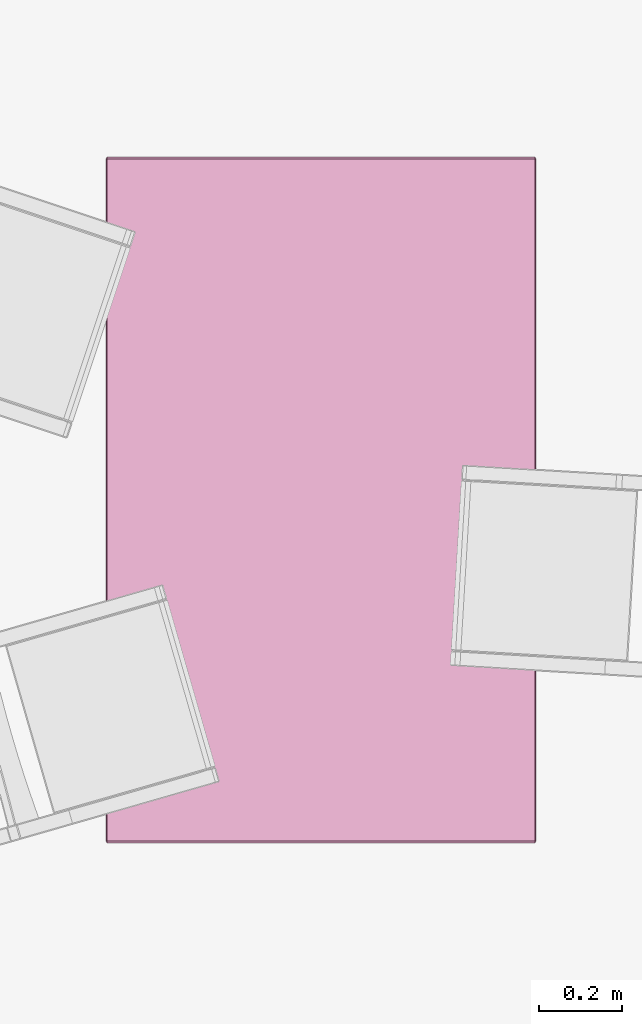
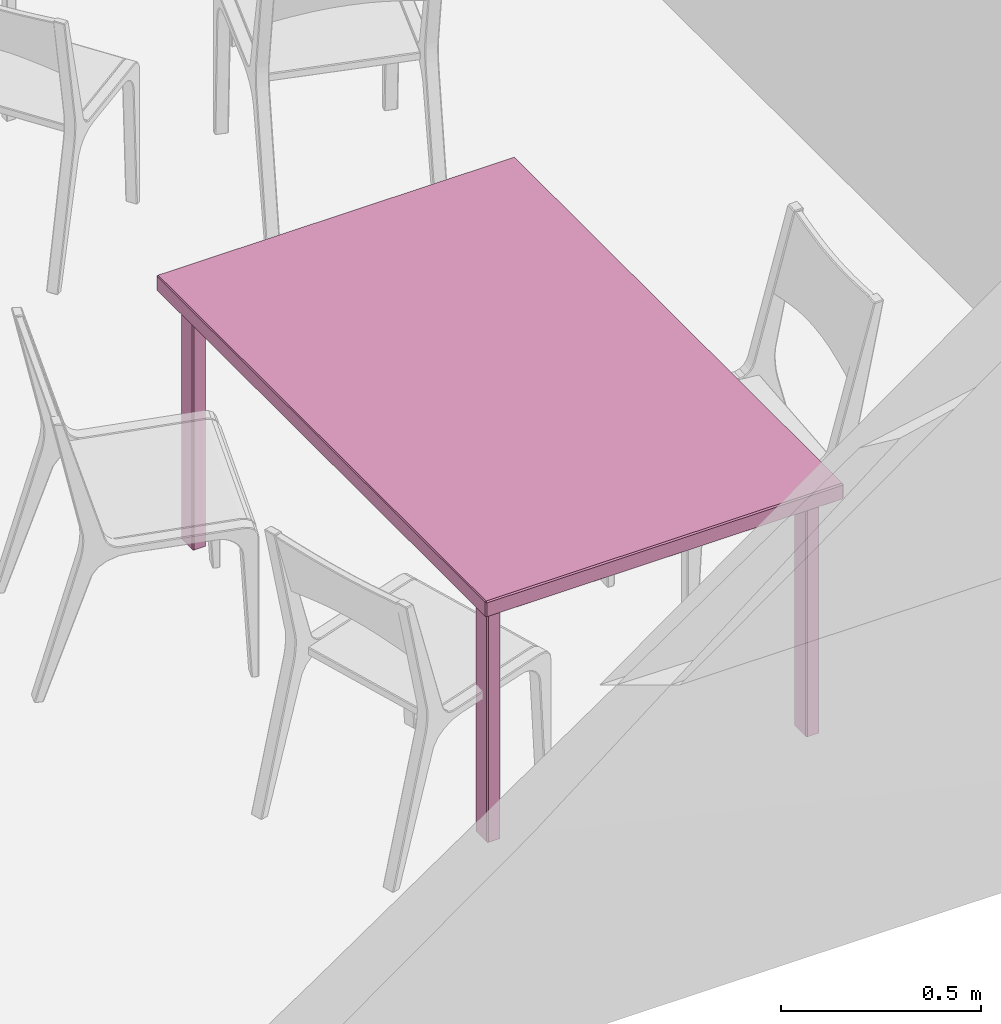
# One storey, part 8 of 25: 1 furnishing.
"""IFC2X3 building model written with IfcOpenShell, lengths in metres."""

from ifc_helpers import new_model, si_unit, direction, frame, origin_with_axes, place, context, project, spatial, faceted_brep, type_object, element, save


model = new_model("IFC2X3")

# Units and contexts
model_context = context("Model", 3, precision=1e-05, world=origin_with_axes(), true_north=direction((0.996, -0.093, 0.0)))
ifc_project = project(units=[si_unit("LENGTHUNIT", "METRE"), si_unit("AREAUNIT", "SQUARE_METRE")], contexts=[model_context])

# Site, building, storey, space
site_placement = place(None, origin_with_axes())
site = spatial("IfcSite", under=ifc_project, at=site_placement, Name="Site", CompositionType="ELEMENT")
building_placement = place(site_placement, origin_with_axes())
building = spatial("IfcBuilding", under=site, at=building_placement, Name="Building", CompositionType="ELEMENT")
storey_placement = place(building_placement, frame((0.0, 0.0, 0.0500001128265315), z_axis=(0.0, 0.0, 1.0), x_axis=(1.0, 0.0, 0.0)))
storey = spatial("IfcBuildingStorey", under=building, at=storey_placement, Name="Story 0", CompositionType="ELEMENT", Elevation=0.0499999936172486)
space_placement = place(storey_placement, frame((9.9354534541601, 0.769255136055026, 0.0), z_axis=(0.0, 0.0, 1.0), x_axis=(1.0, 0.0, 0.0)))
space = spatial("IfcSpace", under=storey, at=space_placement, Name="021", CompositionType="ELEMENT", InteriorOrExteriorSpace="INTERNAL")

# Furnishing
furniture_type = type_object("IfcFurnitureType", Name="36fb0105-c316-4387-9084-c27e1522d03f")
furnishing_placement = place(space_placement, frame((-1.73505596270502, -4.0138420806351, 0.391879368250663), z_axis=(0.0, 0.0, 1.00000000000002), x_axis=(-0.999999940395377, 0.0, 0.0)))
element("IfcFurnishingElement", 1, at=furnishing_placement, inside=space, type_object=furniture_type, Name="Table", ObjectType="Table", context=model_context, shape_type="Brep", body=[
    faceted_brep([(0.5131, 0.8223, 0.3464), (-0.5131, 0.8223, 0.3464), (0.5131, 0.8223, 0.3884), (-0.5131, 0.8223, 0.3884), (0.5131, 0.8223, 0.3884), (-0.5131, 0.8223, 0.3464), (0.4398, -0.7614, 0.3552), (0.4398, -0.7074, 0.3552), (0.4398, -0.7614, -0.3884), (0.4398, -0.7074, -0.3884), (0.4398, -0.7614, -0.3884), (0.4398, -0.7074, 0.3552), (0.4762, -0.7655, 0.3552), (0.4424, -0.7655, 0.3552), (0.4762, -0.7655, -0.3884), (0.4424, -0.7655, -0.3884), (0.4762, -0.7655, -0.3884), (0.4424, -0.7655, 0.3552), (0.4788, -0.7074, 0.3552), (0.4788, -0.7614, 0.3552), (0.4788, -0.7074, -0.3884), (0.4788, -0.7614, -0.3884), (0.4788, -0.7074, -0.3884), (0.4788, -0.7614, 0.3552), (0.4424, -0.7033, 0.3552), (0.4762, -0.7033, 0.3552), (0.4424, -0.7033, -0.3884), (0.4762, -0.7033, -0.3884), (0.4424, -0.7033, -0.3884), (0.4762, -0.7033, 0.3552), (0.4398, 0.7614, 0.3552), (0.4398, 0.7614, -0.3884), (0.4398, 0.7074, 0.3552), (0.4398, 0.7074, -0.3884), (0.4398, 0.7074, 0.3552), (0.4398, 0.7614, -0.3884), (0.4762, 0.7655, 0.3552), (0.4762, 0.7655, -0.3884), (0.4424, 0.7655, 0.3552), (0.4424, 0.7655, -0.3884), (0.4424, 0.7655, 0.3552), (0.4762, 0.7655, -0.3884), (0.4788, 0.7074, 0.3552), (0.4788, 0.7074, -0.3884), (0.4788, 0.7614, 0.3552), (0.4788, 0.7614, -0.3884), (0.4788, 0.7614, 0.3552), (0.4788, 0.7074, -0.3884), (0.4424, 0.7033, 0.3552), (0.4424, 0.7033, -0.3884), (0.4762, 0.7033, 0.3552), (0.4762, 0.7033, -0.3884), (0.4762, 0.7033, 0.3552), (0.4424, 0.7033, -0.3884), (0.5156, 0.8182, 0.3464), (0.5156, 0.8182, 0.3884), (0.5156, -0.8182, 0.3464), (0.5156, -0.8182, 0.3884), (0.5156, -0.8182, 0.3464), (0.5156, 0.8182, 0.3884), (-0.5156, 0.8182, 0.3884), (-0.5156, 0.8182, 0.3464), (-0.5156, -0.8182, 0.3884), (-0.5156, -0.8182, 0.3464), (-0.5156, -0.8182, 0.3884), (-0.5156, 0.8182, 0.3464), (-0.4398, -0.7614, 0.3552), (-0.4398, -0.7614, -0.3884), (-0.4398, -0.7074, 0.3552), (-0.4398, -0.7074, -0.3884), (-0.4398, -0.7074, 0.3552), (-0.4398, -0.7614, -0.3884), (-0.4762, -0.7655, 0.3552), (-0.4762, -0.7655, -0.3884), (-0.4424, -0.7655, 0.3552), (-0.4424, -0.7655, -0.3884), (-0.4424, -0.7655, 0.3552), (-0.4762, -0.7655, -0.3884), (-0.4788, -0.7074, 0.3552), (-0.4788, -0.7074, -0.3884), (-0.4788, -0.7614, 0.3552), (-0.4788, -0.7614, -0.3884), (-0.4788, -0.7614, 0.3552), (-0.4788, -0.7074, -0.3884), (-0.4424, -0.7033, 0.3552), (-0.4424, -0.7033, -0.3884), (-0.4762, -0.7033, 0.3552), (-0.4762, -0.7033, -0.3884), (-0.4762, -0.7033, 0.3552), (-0.4424, -0.7033, -0.3884), (-0.4398, 0.7614, 0.3552), (-0.4398, 0.7074, 0.3552), (-0.4398, 0.7614, -0.3884), (-0.4398, 0.7074, -0.3884), (-0.4398, 0.7614, -0.3884), (-0.4398, 0.7074, 0.3552), (-0.4762, 0.7655, 0.3552), (-0.4424, 0.7655, 0.3552), (-0.4762, 0.7655, -0.3884), (-0.4424, 0.7655, -0.3884), (-0.4762, 0.7655, -0.3884), (-0.4424, 0.7655, 0.3552), (-0.4788, 0.7074, 0.3552), (-0.4788, 0.7614, 0.3552), (-0.4788, 0.7074, -0.3884), (-0.4788, 0.7614, -0.3884), (-0.4788, 0.7074, -0.3884), (-0.4788, 0.7614, 0.3552), (-0.4424, 0.7033, 0.3552), (-0.4762, 0.7033, 0.3552), (-0.4424, 0.7033, -0.3884), (-0.4762, 0.7033, -0.3884), (-0.4424, 0.7033, -0.3884), (-0.4762, 0.7033, 0.3552), (-0.5131, 0.8182, 0.3919), (-0.5131, -0.8182, 0.3919), (0.5131, 0.8182, 0.3919), (0.5131, -0.8182, 0.3919), (0.5131, 0.8182, 0.3919), (-0.5131, -0.8182, 0.3919), (0.5131, -0.8223, 0.3464), (0.5131, -0.8223, 0.3884), (-0.5131, -0.8223, 0.3464), (-0.5131, -0.8223, 0.3884), (-0.5131, -0.8223, 0.3464), (0.5131, -0.8223, 0.3884), (0.5131, -0.8182, 0.343), (-0.5131, -0.8182, 0.343), (0.5131, 0.8182, 0.343), (-0.5131, 0.8182, 0.343), (0.5131, 0.8182, 0.343), (-0.5131, -0.8182, 0.343), (0.4762, -0.7614, 0.3587), (0.4762, -0.7074, 0.3587), (0.4424, -0.7614, 0.3587), (0.4424, -0.7074, 0.3587), (0.4424, -0.7614, 0.3587), (0.4762, -0.7074, 0.3587), (0.4762, -0.7074, -0.3919), (0.4762, -0.7614, -0.3919), (0.4424, -0.7074, -0.3919), (0.4424, -0.7614, -0.3919), (0.4424, -0.7074, -0.3919), (0.4762, -0.7614, -0.3919), (0.4762, 0.7614, -0.3919), (0.4762, 0.7074, -0.3919), (0.4424, 0.7614, -0.3919), (0.4424, 0.7074, -0.3919), (0.4424, 0.7614, -0.3919), (0.4762, 0.7074, -0.3919), (0.4762, 0.7074, 0.3587), (0.4762, 0.7614, 0.3587), (0.4424, 0.7074, 0.3587), (0.4424, 0.7614, 0.3587), (0.4424, 0.7074, 0.3587), (0.4762, 0.7614, 0.3587), (-0.4762, -0.7614, -0.3919), (-0.4762, -0.7074, -0.3919), (-0.4424, -0.7614, -0.3919), (-0.4424, -0.7074, -0.3919), (-0.4424, -0.7614, -0.3919), (-0.4762, -0.7074, -0.3919), (-0.4762, -0.7074, 0.3587), (-0.4762, -0.7614, 0.3587), (-0.4424, -0.7074, 0.3587), (-0.4424, -0.7614, 0.3587), (-0.4424, -0.7074, 0.3587), (-0.4762, -0.7614, 0.3587), (-0.4762, 0.7614, 0.3587), (-0.4762, 0.7074, 0.3587), (-0.4424, 0.7614, 0.3587), (-0.4424, 0.7074, 0.3587), (-0.4424, 0.7614, 0.3587), (-0.4762, 0.7074, 0.3587), (-0.4762, 0.7074, -0.3919), (-0.4762, 0.7614, -0.3919), (-0.4424, 0.7074, -0.3919), (-0.4424, 0.7614, -0.3919), (-0.4424, 0.7074, -0.3919), (-0.4762, 0.7614, -0.3919), (-0.5131, 0.8182, 0.3919), (-0.5131, 0.8223, 0.3884), (-0.5156, 0.8182, 0.3884), (0.4424, -0.7074, -0.3919), (0.4398, -0.7074, -0.3884), (0.4424, -0.7033, -0.3884), (0.4424, -0.7614, -0.3919), (0.4424, -0.7655, -0.3884), (0.4398, -0.7614, -0.3884), (0.4762, -0.7614, -0.3919), (0.4788, -0.7614, -0.3884), (0.4762, -0.7655, -0.3884), (0.4762, -0.7074, -0.3919), (0.4762, -0.7033, -0.3884), (0.4788, -0.7074, -0.3884), (0.4424, -0.7074, 0.3587), (0.4424, -0.7033, 0.3552), (0.4398, -0.7074, 0.3552), (0.4424, 0.7033, -0.3884), (0.4398, 0.7074, -0.3884), (0.4424, 0.7074, -0.3919), (0.4424, 0.7614, 0.3587), (0.4424, 0.7655, 0.3552), (0.4398, 0.7614, 0.3552), (0.4762, 0.7614, 0.3587), (0.4788, 0.7614, 0.3552), (0.4762, 0.7655, 0.3552), (0.4762, 0.7074, 0.3587), (0.4762, 0.7033, 0.3552), (0.4788, 0.7074, 0.3552), (0.5131, -0.8223, 0.3884), (0.5156, -0.8182, 0.3884), (0.5131, -0.8182, 0.3919), (0.5131, 0.8182, 0.3919), (0.5156, 0.8182, 0.3884), (0.5131, 0.8223, 0.3884), (-0.5131, -0.8223, 0.3464), (-0.5156, -0.8182, 0.3464), (-0.5131, -0.8182, 0.343), (-0.5131, 0.8182, 0.343), (-0.5156, 0.8182, 0.3464), (-0.5131, 0.8223, 0.3464), (-0.4424, -0.7033, -0.3884), (-0.4398, -0.7074, -0.3884), (-0.4424, -0.7074, -0.3919), (-0.4424, -0.7614, 0.3587), (-0.4424, -0.7655, 0.3552), (-0.4398, -0.7614, 0.3552), (-0.4762, -0.7614, 0.3587), (-0.4788, -0.7614, 0.3552), (-0.4762, -0.7655, 0.3552), (-0.4762, -0.7074, 0.3587), (-0.4762, -0.7033, 0.3552), (-0.4788, -0.7074, 0.3552), (-0.4424, 0.7074, -0.3919), (-0.4398, 0.7074, -0.3884), (-0.4424, 0.7033, -0.3884), (-0.4424, 0.7614, -0.3919), (-0.4424, 0.7655, -0.3884), (-0.4398, 0.7614, -0.3884), (-0.4762, 0.7614, -0.3919), (-0.4788, 0.7614, -0.3884), (-0.4762, 0.7655, -0.3884), (-0.4762, 0.7074, -0.3919), (-0.4762, 0.7033, -0.3884), (-0.4788, 0.7074, -0.3884), (-0.4424, 0.7074, 0.3587), (-0.4424, 0.7033, 0.3552), (-0.4398, 0.7074, 0.3552), (-0.5131, -0.8223, 0.3884), (-0.5131, -0.8182, 0.3919), (-0.5156, -0.8182, 0.3884), (0.5131, -0.8223, 0.3464), (0.5131, -0.8182, 0.343), (0.5156, -0.8182, 0.3464), (0.5156, 0.8182, 0.3464), (0.5131, 0.8182, 0.343), (0.5131, 0.8223, 0.3464), (0.4762, -0.7033, 0.3552), (0.4762, -0.7074, 0.3587), (0.4788, -0.7074, 0.3552), (0.4788, -0.7614, 0.3552), (0.4762, -0.7614, 0.3587), (0.4762, -0.7655, 0.3552), (0.4424, -0.7655, 0.3552), (0.4424, -0.7614, 0.3587), (0.4398, -0.7614, 0.3552), (0.4762, 0.7033, -0.3884), (0.4762, 0.7074, -0.3919), (0.4788, 0.7074, -0.3884), (0.4788, 0.7614, -0.3884), (0.4762, 0.7614, -0.3919), (0.4762, 0.7655, -0.3884), (0.4424, 0.7655, -0.3884), (0.4424, 0.7614, -0.3919), (0.4398, 0.7614, -0.3884), (0.4424, 0.7033, 0.3552), (0.4424, 0.7074, 0.3587), (0.4398, 0.7074, 0.3552), (-0.4762, -0.7033, -0.3884), (-0.4762, -0.7074, -0.3919), (-0.4788, -0.7074, -0.3884), (-0.4788, -0.7614, -0.3884), (-0.4762, -0.7614, -0.3919), (-0.4762, -0.7655, -0.3884), (-0.4424, -0.7655, -0.3884), (-0.4424, -0.7614, -0.3919), (-0.4398, -0.7614, -0.3884), (-0.4424, -0.7033, 0.3552), (-0.4424, -0.7074, 0.3587), (-0.4398, -0.7074, 0.3552), (-0.4762, 0.7033, 0.3552), (-0.4762, 0.7074, 0.3587), (-0.4788, 0.7074, 0.3552), (-0.4788, 0.7614, 0.3552), (-0.4762, 0.7614, 0.3587), (-0.4762, 0.7655, 0.3552), (-0.4424, 0.7655, 0.3552), (-0.4424, 0.7614, 0.3587), (-0.4398, 0.7614, 0.3552), (-0.5131, 0.8223, 0.3884), (-0.5131, 0.8223, 0.3464), (-0.5156, 0.8182, 0.3884), (-0.5156, 0.8182, 0.3464), (-0.5156, 0.8182, 0.3884), (-0.5131, 0.8223, 0.3464), (-0.5131, 0.8223, 0.3464), (0.5131, 0.8223, 0.3464), (-0.5131, 0.8182, 0.343), (0.5131, 0.8182, 0.343), (-0.5131, 0.8182, 0.343), (0.5131, 0.8223, 0.3464), (0.5131, 0.8223, 0.3464), (0.5131, 0.8223, 0.3884), (0.5156, 0.8182, 0.3464), (0.5156, 0.8182, 0.3884), (0.5156, 0.8182, 0.3464), (0.5131, 0.8223, 0.3884), (0.5131, 0.8223, 0.3884), (-0.5131, 0.8223, 0.3884), (0.5131, 0.8182, 0.3919), (-0.5131, 0.8182, 0.3919), (0.5131, 0.8182, 0.3919), (-0.5131, 0.8223, 0.3884), (0.4398, -0.7074, -0.3884), (0.4398, -0.7074, 0.3552), (0.4424, -0.7033, -0.3884), (0.4424, -0.7033, 0.3552), (0.4424, -0.7033, -0.3884), (0.4398, -0.7074, 0.3552), (0.4398, -0.7074, 0.3552), (0.4398, -0.7614, 0.3552), (0.4424, -0.7074, 0.3587), (0.4424, -0.7614, 0.3587), (0.4424, -0.7074, 0.3587), (0.4398, -0.7614, 0.3552), (0.4398, -0.7614, 0.3552), (0.4398, -0.7614, -0.3884), (0.4424, -0.7655, 0.3552), (0.4424, -0.7655, -0.3884), (0.4424, -0.7655, 0.3552), (0.4398, -0.7614, -0.3884), (0.4398, -0.7614, -0.3884), (0.4398, -0.7074, -0.3884), (0.4424, -0.7614, -0.3919), (0.4424, -0.7074, -0.3919), (0.4424, -0.7614, -0.3919), (0.4398, -0.7074, -0.3884), (0.4424, -0.7655, 0.3552), (0.4762, -0.7655, 0.3552), (0.4424, -0.7614, 0.3587), (0.4762, -0.7614, 0.3587), (0.4424, -0.7614, 0.3587), (0.4762, -0.7655, 0.3552), (0.4762, -0.7655, 0.3552), (0.4762, -0.7655, -0.3884), (0.4788, -0.7614, 0.3552), (0.4788, -0.7614, -0.3884), (0.4788, -0.7614, 0.3552), (0.4762, -0.7655, -0.3884), (0.4762, -0.7655, -0.3884), (0.4424, -0.7655, -0.3884), (0.4762, -0.7614, -0.3919), (0.4424, -0.7614, -0.3919), (0.4762, -0.7614, -0.3919), (0.4424, -0.7655, -0.3884), (0.4788, -0.7614, 0.3552), (0.4788, -0.7074, 0.3552), (0.4762, -0.7614, 0.3587), (0.4762, -0.7074, 0.3587), (0.4762, -0.7614, 0.3587), (0.4788, -0.7074, 0.3552), (0.4788, -0.7074, 0.3552), (0.4788, -0.7074, -0.3884), (0.4762, -0.7033, 0.3552), (0.4762, -0.7033, -0.3884), (0.4762, -0.7033, 0.3552), (0.4788, -0.7074, -0.3884), (0.4788, -0.7074, -0.3884), (0.4788, -0.7614, -0.3884), (0.4762, -0.7074, -0.3919), (0.4762, -0.7614, -0.3919), (0.4762, -0.7074, -0.3919), (0.4788, -0.7614, -0.3884), (0.4762, -0.7033, 0.3552), (0.4424, -0.7033, 0.3552), (0.4762, -0.7074, 0.3587), (0.4424, -0.7074, 0.3587), (0.4762, -0.7074, 0.3587), (0.4424, -0.7033, 0.3552), (0.4424, -0.7033, -0.3884), (0.4762, -0.7033, -0.3884), (0.4424, -0.7074, -0.3919), (0.4762, -0.7074, -0.3919), (0.4424, -0.7074, -0.3919), (0.4762, -0.7033, -0.3884), (0.4398, 0.7074, -0.3884), (0.4398, 0.7614, -0.3884), (0.4424, 0.7074, -0.3919), (0.4424, 0.7614, -0.3919), (0.4424, 0.7074, -0.3919), (0.4398, 0.7614, -0.3884), (0.4398, 0.7614, -0.3884), (0.4398, 0.7614, 0.3552), (0.4424, 0.7655, -0.3884), (0.4424, 0.7655, 0.3552), (0.4424, 0.7655, -0.3884), (0.4398, 0.7614, 0.3552), (0.4398, 0.7614, 0.3552), (0.4398, 0.7074, 0.3552), (0.4424, 0.7614, 0.3587), (0.4424, 0.7074, 0.3587), (0.4424, 0.7614, 0.3587), (0.4398, 0.7074, 0.3552), (0.4398, 0.7074, 0.3552), (0.4398, 0.7074, -0.3884), (0.4424, 0.7033, 0.3552), (0.4424, 0.7033, -0.3884), (0.4424, 0.7033, 0.3552), (0.4398, 0.7074, -0.3884), (0.4424, 0.7655, -0.3884), (0.4762, 0.7655, -0.3884), (0.4424, 0.7614, -0.3919), (0.4762, 0.7614, -0.3919), (0.4424, 0.7614, -0.3919), (0.4762, 0.7655, -0.3884), (0.4762, 0.7655, -0.3884), (0.4762, 0.7655, 0.3552), (0.4788, 0.7614, -0.3884), (0.4788, 0.7614, 0.3552), (0.4788, 0.7614, -0.3884), (0.4762, 0.7655, 0.3552), (0.4762, 0.7655, 0.3552), (0.4424, 0.7655, 0.3552), (0.4762, 0.7614, 0.3587), (0.4424, 0.7614, 0.3587), (0.4762, 0.7614, 0.3587), (0.4424, 0.7655, 0.3552), (0.4788, 0.7614, -0.3884), (0.4788, 0.7074, -0.3884), (0.4762, 0.7614, -0.3919), (0.4762, 0.7074, -0.3919), (0.4762, 0.7614, -0.3919), (0.4788, 0.7074, -0.3884), (0.4788, 0.7074, -0.3884), (0.4788, 0.7074, 0.3552), (0.4762, 0.7033, -0.3884), (0.4762, 0.7033, 0.3552), (0.4762, 0.7033, -0.3884), (0.4788, 0.7074, 0.3552), (0.4788, 0.7074, 0.3552), (0.4788, 0.7614, 0.3552), (0.4762, 0.7074, 0.3587), (0.4762, 0.7614, 0.3587), (0.4762, 0.7074, 0.3587), (0.4788, 0.7614, 0.3552), (0.4762, 0.7033, -0.3884), (0.4424, 0.7033, -0.3884), (0.4762, 0.7074, -0.3919), (0.4424, 0.7074, -0.3919), (0.4762, 0.7074, -0.3919), (0.4424, 0.7033, -0.3884), (0.4424, 0.7033, 0.3552), (0.4762, 0.7033, 0.3552), (0.4424, 0.7074, 0.3587), (0.4762, 0.7074, 0.3587), (0.4424, 0.7074, 0.3587), (0.4762, 0.7033, 0.3552), (0.5156, -0.8182, 0.3884), (0.5156, 0.8182, 0.3884), (0.5131, -0.8182, 0.3919), (0.5131, 0.8182, 0.3919), (0.5131, -0.8182, 0.3919), (0.5156, 0.8182, 0.3884), (0.5156, 0.8182, 0.3464), (0.5156, -0.8182, 0.3464), (0.5131, 0.8182, 0.343), (0.5131, -0.8182, 0.343), (0.5131, 0.8182, 0.343), (0.5156, -0.8182, 0.3464), (0.5156, -0.8182, 0.3464), (0.5156, -0.8182, 0.3884), (0.5131, -0.8223, 0.3464), (0.5131, -0.8223, 0.3884), (0.5131, -0.8223, 0.3464), (0.5156, -0.8182, 0.3884), (-0.5156, -0.8182, 0.3464), (-0.5156, 0.8182, 0.3464), (-0.5131, -0.8182, 0.343), (-0.5131, 0.8182, 0.343), (-0.5131, -0.8182, 0.343), (-0.5156, 0.8182, 0.3464), (-0.5156, 0.8182, 0.3884), (-0.5156, -0.8182, 0.3884), (-0.5131, 0.8182, 0.3919), (-0.5131, -0.8182, 0.3919), (-0.5131, 0.8182, 0.3919), (-0.5156, -0.8182, 0.3884), (-0.5156, -0.8182, 0.3884), (-0.5156, -0.8182, 0.3464), (-0.5131, -0.8223, 0.3884), (-0.5131, -0.8223, 0.3464), (-0.5131, -0.8223, 0.3884), (-0.5156, -0.8182, 0.3464), (-0.4398, -0.7074, -0.3884), (-0.4398, -0.7614, -0.3884), (-0.4424, -0.7074, -0.3919), (-0.4424, -0.7614, -0.3919), (-0.4424, -0.7074, -0.3919), (-0.4398, -0.7614, -0.3884), (-0.4398, -0.7614, -0.3884), (-0.4398, -0.7614, 0.3552), (-0.4424, -0.7655, -0.3884), (-0.4424, -0.7655, 0.3552), (-0.4424, -0.7655, -0.3884), (-0.4398, -0.7614, 0.3552), (-0.4398, -0.7614, 0.3552), (-0.4398, -0.7074, 0.3552), (-0.4424, -0.7614, 0.3587), (-0.4424, -0.7074, 0.3587), (-0.4424, -0.7614, 0.3587), (-0.4398, -0.7074, 0.3552), (-0.4398, -0.7074, 0.3552), (-0.4398, -0.7074, -0.3884), (-0.4424, -0.7033, 0.3552), (-0.4424, -0.7033, -0.3884), (-0.4424, -0.7033, 0.3552), (-0.4398, -0.7074, -0.3884), (-0.4424, -0.7655, -0.3884), (-0.4762, -0.7655, -0.3884), (-0.4424, -0.7614, -0.3919), (-0.4762, -0.7614, -0.3919), (-0.4424, -0.7614, -0.3919), (-0.4762, -0.7655, -0.3884), (-0.4762, -0.7655, -0.3884), (-0.4762, -0.7655, 0.3552), (-0.4788, -0.7614, -0.3884), (-0.4788, -0.7614, 0.3552), (-0.4788, -0.7614, -0.3884), (-0.4762, -0.7655, 0.3552), (-0.4762, -0.7655, 0.3552), (-0.4424, -0.7655, 0.3552), (-0.4762, -0.7614, 0.3587), (-0.4424, -0.7614, 0.3587), (-0.4762, -0.7614, 0.3587), (-0.4424, -0.7655, 0.3552), (-0.4788, -0.7614, -0.3884), (-0.4788, -0.7074, -0.3884), (-0.4762, -0.7614, -0.3919), (-0.4762, -0.7074, -0.3919), (-0.4762, -0.7614, -0.3919), (-0.4788, -0.7074, -0.3884), (-0.4788, -0.7074, -0.3884), (-0.4788, -0.7074, 0.3552), (-0.4762, -0.7033, -0.3884), (-0.4762, -0.7033, 0.3552), (-0.4762, -0.7033, -0.3884), (-0.4788, -0.7074, 0.3552), (-0.4788, -0.7074, 0.3552), (-0.4788, -0.7614, 0.3552), (-0.4762, -0.7074, 0.3587), (-0.4762, -0.7614, 0.3587), (-0.4762, -0.7074, 0.3587), (-0.4788, -0.7614, 0.3552), (-0.4762, -0.7033, -0.3884), (-0.4424, -0.7033, -0.3884), (-0.4762, -0.7074, -0.3919), (-0.4424, -0.7074, -0.3919), (-0.4762, -0.7074, -0.3919), (-0.4424, -0.7033, -0.3884), (-0.4424, -0.7033, 0.3552), (-0.4762, -0.7033, 0.3552), (-0.4424, -0.7074, 0.3587), (-0.4762, -0.7074, 0.3587), (-0.4424, -0.7074, 0.3587), (-0.4762, -0.7033, 0.3552), (-0.4398, 0.7074, -0.3884), (-0.4398, 0.7074, 0.3552), (-0.4424, 0.7033, -0.3884), (-0.4424, 0.7033, 0.3552), (-0.4424, 0.7033, -0.3884), (-0.4398, 0.7074, 0.3552), (-0.4398, 0.7074, 0.3552), (-0.4398, 0.7614, 0.3552), (-0.4424, 0.7074, 0.3587), (-0.4424, 0.7614, 0.3587), (-0.4424, 0.7074, 0.3587), (-0.4398, 0.7614, 0.3552), (-0.4398, 0.7614, 0.3552), (-0.4398, 0.7614, -0.3884), (-0.4424, 0.7655, 0.3552), (-0.4424, 0.7655, -0.3884), (-0.4424, 0.7655, 0.3552), (-0.4398, 0.7614, -0.3884), (-0.4398, 0.7614, -0.3884), (-0.4398, 0.7074, -0.3884), (-0.4424, 0.7614, -0.3919), (-0.4424, 0.7074, -0.3919), (-0.4424, 0.7614, -0.3919), (-0.4398, 0.7074, -0.3884), (-0.4424, 0.7655, 0.3552), (-0.4762, 0.7655, 0.3552), (-0.4424, 0.7614, 0.3587), (-0.4762, 0.7614, 0.3587), (-0.4424, 0.7614, 0.3587), (-0.4762, 0.7655, 0.3552), (-0.4762, 0.7655, 0.3552), (-0.4762, 0.7655, -0.3884), (-0.4788, 0.7614, 0.3552), (-0.4788, 0.7614, -0.3884), (-0.4788, 0.7614, 0.3552), (-0.4762, 0.7655, -0.3884), (-0.4762, 0.7655, -0.3884), (-0.4424, 0.7655, -0.3884), (-0.4762, 0.7614, -0.3919), (-0.4424, 0.7614, -0.3919), (-0.4762, 0.7614, -0.3919), (-0.4424, 0.7655, -0.3884), (-0.4788, 0.7614, 0.3552), (-0.4788, 0.7074, 0.3552), (-0.4762, 0.7614, 0.3587), (-0.4762, 0.7074, 0.3587), (-0.4762, 0.7614, 0.3587), (-0.4788, 0.7074, 0.3552), (-0.4788, 0.7074, 0.3552), (-0.4788, 0.7074, -0.3884), (-0.4762, 0.7033, 0.3552), (-0.4762, 0.7033, -0.3884), (-0.4762, 0.7033, 0.3552), (-0.4788, 0.7074, -0.3884), (-0.4788, 0.7074, -0.3884), (-0.4788, 0.7614, -0.3884), (-0.4762, 0.7074, -0.3919), (-0.4762, 0.7614, -0.3919), (-0.4762, 0.7074, -0.3919), (-0.4788, 0.7614, -0.3884), (-0.4762, 0.7033, 0.3552), (-0.4424, 0.7033, 0.3552), (-0.4762, 0.7074, 0.3587), (-0.4424, 0.7074, 0.3587), (-0.4762, 0.7074, 0.3587), (-0.4424, 0.7033, 0.3552), (-0.4424, 0.7033, -0.3884), (-0.4762, 0.7033, -0.3884), (-0.4424, 0.7074, -0.3919), (-0.4762, 0.7074, -0.3919), (-0.4424, 0.7074, -0.3919), (-0.4762, 0.7033, -0.3884), (0.5131, -0.8182, 0.3919), (-0.5131, -0.8182, 0.3919), (0.5131, -0.8223, 0.3884), (-0.5131, -0.8223, 0.3884), (0.5131, -0.8223, 0.3884), (-0.5131, -0.8182, 0.3919), (0.5131, -0.8223, 0.3464), (-0.5131, -0.8223, 0.3464), (0.5131, -0.8182, 0.343), (-0.5131, -0.8182, 0.343), (0.5131, -0.8182, 0.343), (-0.5131, -0.8223, 0.3464)], [[[0, 1, 2]], [[3, 4, 5]], [[6, 7, 8]], [[9, 10, 11]], [[12, 13, 14]], [[15, 16, 17]], [[18, 19, 20]], [[21, 22, 23]], [[24, 25, 26]], [[27, 28, 29]], [[30, 31, 32]], [[33, 34, 35]], [[36, 37, 38]], [[39, 40, 41]], [[42, 43, 44]], [[45, 46, 47]], [[48, 49, 50]], [[51, 52, 53]], [[54, 55, 56]], [[57, 58, 59]], [[60, 61, 62]], [[63, 64, 65]], [[66, 67, 68]], [[69, 70, 71]], [[72, 73, 74]], [[75, 76, 77]], [[78, 79, 80]], [[81, 82, 83]], [[84, 85, 86]], [[87, 88, 89]], [[90, 91, 92]], [[93, 94, 95]], [[96, 97, 98]], [[99, 100, 101]], [[102, 103, 104]], [[105, 106, 107]], [[108, 109, 110]], [[111, 112, 113]], [[114, 115, 116]], [[117, 118, 119]], [[120, 121, 122]], [[123, 124, 125]], [[126, 127, 128]], [[129, 130, 131]], [[132, 133, 134]], [[135, 136, 137]], [[138, 139, 140]], [[141, 142, 143]], [[144, 145, 146]], [[147, 148, 149]], [[150, 151, 152]], [[153, 154, 155]], [[156, 157, 158]], [[159, 160, 161]], [[162, 163, 164]], [[165, 166, 167]], [[168, 169, 170]], [[171, 172, 173]], [[174, 175, 176]], [[177, 178, 179]], [[180, 181, 182]], [[183, 184, 185]], [[186, 187, 188]], [[189, 190, 191]], [[192, 193, 194]], [[195, 196, 197]], [[198, 199, 200]], [[201, 202, 203]], [[204, 205, 206]], [[207, 208, 209]], [[210, 211, 212]], [[213, 214, 215]], [[216, 217, 218]], [[219, 220, 221]], [[222, 223, 224]], [[225, 226, 227]], [[228, 229, 230]], [[231, 232, 233]], [[234, 235, 236]], [[237, 238, 239]], [[240, 241, 242]], [[243, 244, 245]], [[246, 247, 248]], [[249, 250, 251]], [[252, 253, 254]], [[255, 256, 257]], [[258, 259, 260]], [[261, 262, 263]], [[264, 265, 266]], [[267, 268, 269]], [[270, 271, 272]], [[273, 274, 275]], [[276, 277, 278]], [[279, 280, 281]], [[282, 283, 284]], [[285, 286, 287]], [[288, 289, 290]], [[291, 292, 293]], [[294, 295, 296]], [[297, 298, 299]], [[300, 301, 302]], [[303, 304, 305]], [[306, 307, 308]], [[309, 310, 311]], [[312, 313, 314]], [[315, 316, 317]], [[318, 319, 320]], [[321, 322, 323]], [[324, 325, 326]], [[327, 328, 329]], [[330, 331, 332]], [[333, 334, 335]], [[336, 337, 338]], [[339, 340, 341]], [[342, 343, 344]], [[345, 346, 347]], [[348, 349, 350]], [[351, 352, 353]], [[354, 355, 356]], [[357, 358, 359]], [[360, 361, 362]], [[363, 364, 365]], [[366, 367, 368]], [[369, 370, 371]], [[372, 373, 374]], [[375, 376, 377]], [[378, 379, 380]], [[381, 382, 383]], [[384, 385, 386]], [[387, 388, 389]], [[390, 391, 392]], [[393, 394, 395]], [[396, 397, 398]], [[399, 400, 401]], [[402, 403, 404]], [[405, 406, 407]], [[408, 409, 410]], [[411, 412, 413]], [[414, 415, 416]], [[417, 418, 419]], [[420, 421, 422]], [[423, 424, 425]], [[426, 427, 428]], [[429, 430, 431]], [[432, 433, 434]], [[435, 436, 437]], [[438, 439, 440]], [[441, 442, 443]], [[444, 445, 446]], [[447, 448, 449]], [[450, 451, 452]], [[453, 454, 455]], [[456, 457, 458]], [[459, 460, 461]], [[462, 463, 464]], [[465, 466, 467]], [[468, 469, 470]], [[471, 472, 473]], [[474, 475, 476]], [[477, 478, 479]], [[480, 481, 482]], [[483, 484, 485]], [[486, 487, 488]], [[489, 490, 491]], [[492, 493, 494]], [[495, 496, 497]], [[498, 499, 500]], [[501, 502, 503]], [[504, 505, 506]], [[507, 508, 509]], [[510, 511, 512]], [[513, 514, 515]], [[516, 517, 518]], [[519, 520, 521]], [[522, 523, 524]], [[525, 526, 527]], [[528, 529, 530]], [[531, 532, 533]], [[534, 535, 536]], [[537, 538, 539]], [[540, 541, 542]], [[543, 544, 545]], [[546, 547, 548]], [[549, 550, 551]], [[552, 553, 554]], [[555, 556, 557]], [[558, 559, 560]], [[561, 562, 563]], [[564, 565, 566]], [[567, 568, 569]], [[570, 571, 572]], [[573, 574, 575]], [[576, 577, 578]], [[579, 580, 581]], [[582, 583, 584]], [[585, 586, 587]], [[588, 589, 590]], [[591, 592, 593]], [[594, 595, 596]], [[597, 598, 599]], [[600, 601, 602]], [[603, 604, 605]], [[606, 607, 608]], [[609, 610, 611]], [[612, 613, 614]], [[615, 616, 617]], [[618, 619, 620]], [[621, 622, 623]], [[624, 625, 626]], [[627, 628, 629]], [[630, 631, 632]], [[633, 634, 635]], [[636, 637, 638]], [[639, 640, 641]], [[642, 643, 644]], [[645, 646, 647]], [[648, 649, 650]], [[651, 652, 653]], [[654, 655, 656]], [[657, 658, 659]]]),
])

save(model, "model.ifc")
